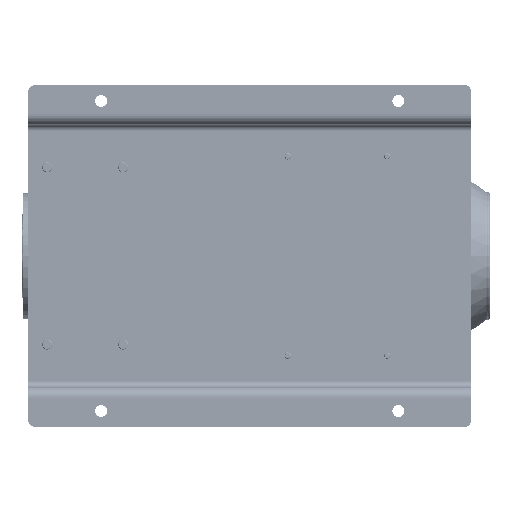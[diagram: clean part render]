
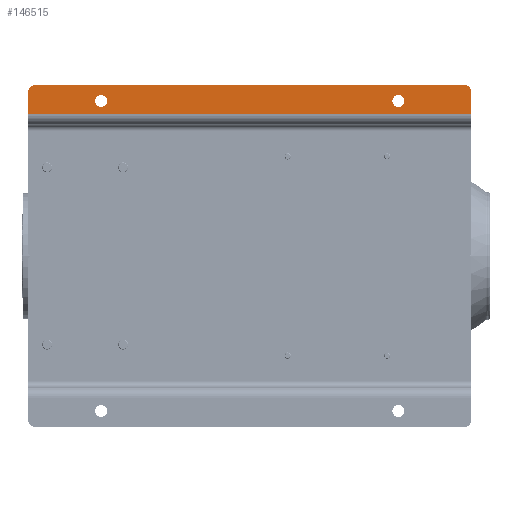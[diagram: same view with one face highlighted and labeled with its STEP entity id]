
A CAD part, front view. The second image highlights one B-rep face of the part: STEP entity #146515.
In plain terms, the highlighted planar face has unit normal (0, -1, 0).
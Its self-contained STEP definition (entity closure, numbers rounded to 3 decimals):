
#83 = CIRCLE ( 'NONE', #52594, 9.5 ) ;
#2831 = CIRCLE ( 'NONE', #168982, 9.5 ) ;
#4853 = EDGE_LOOP ( 'NONE', ( #110130, #110829, #19970, #68130, #59334, #28830 ) ) ;
#4945 = CIRCLE ( 'NONE', #168211, 10. ) ;
#6486 = DIRECTION ( 'NONE',  ( 0., 0., -1. ) ) ;
#8330 = CARTESIAN_POINT ( 'NONE',  ( 515., 0., -594.5 ) ) ;
#8768 = EDGE_CURVE ( 'NONE', #91614, #115686, #162437, .T. ) ;
#10553 = AXIS2_PLACEMENT_3D ( 'NONE', #114862, #141334, #115785 ) ;
#11048 = EDGE_CURVE ( 'NONE', #32132, #168196, #2831, .T. ) ;
#13042 = AXIS2_PLACEMENT_3D ( 'NONE', #48508, #144365, #6486 ) ;
#14179 = VERTEX_POINT ( 'NONE', #161192 ) ;
#18758 = CARTESIAN_POINT ( 'NONE',  ( 477., 0., 0. ) ) ;
#19970 = ORIENTED_EDGE ( 'NONE', *, *, #84042, .T. ) ;
#23995 = LINE ( 'NONE', #93390, #141021 ) ;
#28830 = ORIENTED_EDGE ( 'NONE', *, *, #144823, .T. ) ;
#29057 = DIRECTION ( 'NONE',  ( 0., 1., 0. ) ) ;
#30451 = DIRECTION ( 'NONE',  ( 0., 1., 0. ) ) ;
#31780 = LINE ( 'NONE', #129424, #145680 ) ;
#32132 = VERTEX_POINT ( 'NONE', #8330 ) ;
#34299 = LINE ( 'NONE', #18758, #131954 ) ;
#36218 = DIRECTION ( 'NONE',  ( 0., 0., -1. ) ) ;
#38953 = EDGE_CURVE ( 'NONE', #167637, #14179, #168181, .T. ) ;
#39480 = CARTESIAN_POINT ( 'NONE',  ( 540., 0., -690. ) ) ;
#48508 = CARTESIAN_POINT ( 'NONE',  ( 515., 0., -585. ) ) ;
#50935 = VERTEX_POINT ( 'NONE', #63312 ) ;
#52594 = AXIS2_PLACEMENT_3D ( 'NONE', #62518, #100937, #156630 ) ;
#52743 = EDGE_LOOP ( 'NONE', ( #87240, #137979 ) ) ;
#53945 = DIRECTION ( 'NONE',  ( 0., -1., 0. ) ) ;
#54386 = CIRCLE ( 'NONE', #10553, 10. ) ;
#59334 = ORIENTED_EDGE ( 'NONE', *, *, #38953, .T. ) ;
#62518 = CARTESIAN_POINT ( 'NONE',  ( 515., 0., -115. ) ) ;
#63312 = CARTESIAN_POINT ( 'NONE',  ( 530., 0., -700. ) ) ;
#68130 = ORIENTED_EDGE ( 'NONE', *, *, #89713, .T. ) ;
#70591 = ORIENTED_EDGE ( 'NONE', *, *, #8768, .T. ) ;
#73211 = CARTESIAN_POINT ( 'NONE',  ( 515., 0., -105.5 ) ) ;
#74491 = DIRECTION ( 'NONE',  ( 1., 0., 0. ) ) ;
#74685 = DIRECTION ( 'NONE',  ( 0., -1., 0. ) ) ;
#80859 = CARTESIAN_POINT ( 'NONE',  ( 515., 0., -575.5 ) ) ;
#81856 = VERTEX_POINT ( 'NONE', #155108 ) ;
#84042 = EDGE_CURVE ( 'NONE', #81856, #50935, #23995, .T. ) ;
#84713 = VERTEX_POINT ( 'NONE', #95677 ) ;
#85682 = EDGE_CURVE ( 'NONE', #168196, #32132, #91759, .T. ) ;
#87240 = ORIENTED_EDGE ( 'NONE', *, *, #85682, .T. ) ;
#89657 = VERTEX_POINT ( 'NONE', #127695 ) ;
#89713 = EDGE_CURVE ( 'NONE', #50935, #167637, #54386, .T. ) ;
#91614 = VERTEX_POINT ( 'NONE', #73211 ) ;
#91759 = CIRCLE ( 'NONE', #13042, 9.5 ) ;
#93390 = CARTESIAN_POINT ( 'NONE',  ( 477., 0., -700. ) ) ;
#95677 = CARTESIAN_POINT ( 'NONE',  ( 530., 0., 0. ) ) ;
#97019 = CARTESIAN_POINT ( 'NONE',  ( 540., 0., -700. ) ) ;
#97604 = CARTESIAN_POINT ( 'NONE',  ( 515., 0., -124.5 ) ) ;
#98446 = DIRECTION ( 'NONE',  ( 0., 0., -1. ) ) ;
#100937 = DIRECTION ( 'NONE',  ( 0., 1., 0. ) ) ;
#102872 = EDGE_CURVE ( 'NONE', #115686, #91614, #83, .T. ) ;
#104051 = EDGE_LOOP ( 'NONE', ( #70591, #155883 ) ) ;
#109961 = AXIS2_PLACEMENT_3D ( 'NONE', #113529, #30451, #170111 ) ;
#110130 = ORIENTED_EDGE ( 'NONE', *, *, #125633, .F. ) ;
#110525 = DIRECTION ( 'NONE',  ( 0., 0., -1. ) ) ;
#110829 = ORIENTED_EDGE ( 'NONE', *, *, #113761, .T. ) ;
#112071 = CARTESIAN_POINT ( 'NONE',  ( 515., 0., -585. ) ) ;
#113529 = CARTESIAN_POINT ( 'NONE',  ( 515., 0., -115. ) ) ;
#113761 = EDGE_CURVE ( 'NONE', #89657, #81856, #31780, .T. ) ;
#113918 = DIRECTION ( 'NONE',  ( 0., 0., -1. ) ) ;
#114862 = CARTESIAN_POINT ( 'NONE',  ( 530., 0., -690. ) ) ;
#115686 = VERTEX_POINT ( 'NONE', #97604 ) ;
#115785 = DIRECTION ( 'NONE',  ( 0., 0., -1. ) ) ;
#118413 = FACE_OUTER_BOUND ( 'NONE', #4853, .T. ) ;
#125633 = EDGE_CURVE ( 'NONE', #89657, #84713, #34299, .T. ) ;
#127695 = CARTESIAN_POINT ( 'NONE',  ( 495., 0., 0. ) ) ;
#129424 = CARTESIAN_POINT ( 'NONE',  ( 495., 0., -700. ) ) ;
#131954 = VECTOR ( 'NONE', #74491, 1000. ) ;
#132083 = FACE_BOUND ( 'NONE', #104051, .T. ) ;
#132995 = CARTESIAN_POINT ( 'NONE',  ( 477., 0., -700. ) ) ;
#137016 = CARTESIAN_POINT ( 'NONE',  ( 530., 0., -10. ) ) ;
#137979 = ORIENTED_EDGE ( 'NONE', *, *, #11048, .T. ) ;
#141021 = VECTOR ( 'NONE', #148144, 1000. ) ;
#141334 = DIRECTION ( 'NONE',  ( 0., -1., 0. ) ) ;
#144365 = DIRECTION ( 'NONE',  ( 0., 1., 0. ) ) ;
#144823 = EDGE_CURVE ( 'NONE', #14179, #84713, #4945, .T. ) ;
#144977 = VECTOR ( 'NONE', #152673, 1000. ) ;
#145680 = VECTOR ( 'NONE', #113918, 1000. ) ;
#146515 = ADVANCED_FACE ( 'NONE', ( #132083, #161271, #118413 ), #174112, .T. ) ;
#148144 = DIRECTION ( 'NONE',  ( 1., 0., 0. ) ) ;
#152673 = DIRECTION ( 'NONE',  ( 0., 0., 1. ) ) ;
#155108 = CARTESIAN_POINT ( 'NONE',  ( 495., 0., -700. ) ) ;
#155883 = ORIENTED_EDGE ( 'NONE', *, *, #102872, .T. ) ;
#156630 = DIRECTION ( 'NONE',  ( 0., 0., -1. ) ) ;
#157010 = AXIS2_PLACEMENT_3D ( 'NONE', #132995, #74685, #36218 ) ;
#161192 = CARTESIAN_POINT ( 'NONE',  ( 540., 0., -10. ) ) ;
#161271 = FACE_BOUND ( 'NONE', #52743, .T. ) ;
#162437 = CIRCLE ( 'NONE', #109961, 9.5 ) ;
#167637 = VERTEX_POINT ( 'NONE', #39480 ) ;
#168181 = LINE ( 'NONE', #97019, #144977 ) ;
#168196 = VERTEX_POINT ( 'NONE', #80859 ) ;
#168211 = AXIS2_PLACEMENT_3D ( 'NONE', #137016, #53945, #110525 ) ;
#168982 = AXIS2_PLACEMENT_3D ( 'NONE', #112071, #29057, #98446 ) ;
#170111 = DIRECTION ( 'NONE',  ( 0., 0., -1. ) ) ;
#174112 = PLANE ( 'NONE',  #157010 ) ;
